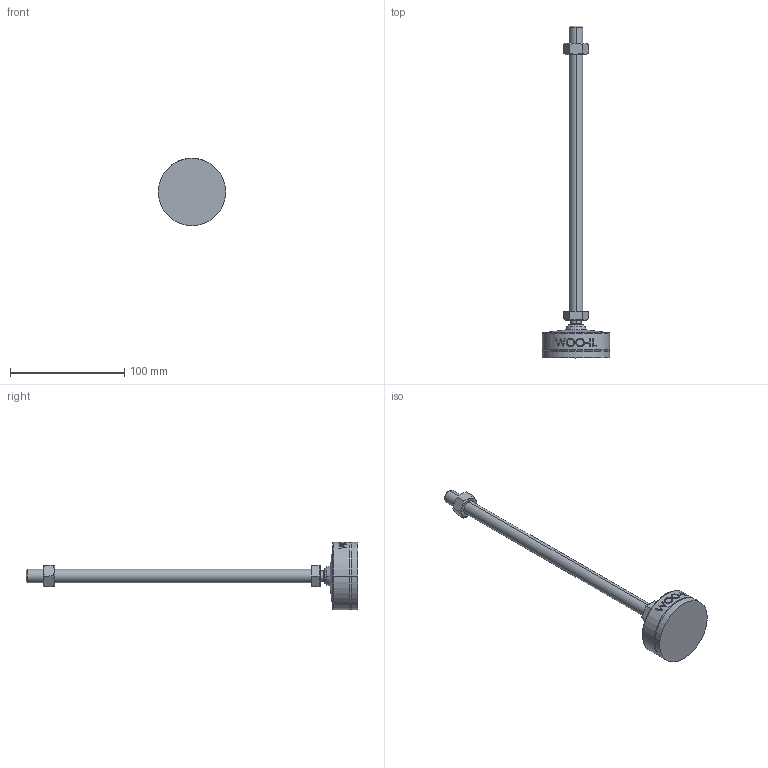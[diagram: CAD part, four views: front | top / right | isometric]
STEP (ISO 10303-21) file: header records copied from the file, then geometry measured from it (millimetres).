
FILE_DESCRIPTION (( 'STEP AP214' ), '1' );
FILE_NAME ('MFNR59-M12-250.step', '2021-02-22T09:06:20', ( '' ), ( '' ), 'SwSTEP 2.0', 'SolidWorks 2019', '' );
FILE_SCHEMA (( 'AUTOMOTIVE_DESIGN' ));
Length unit declared in the file: millimetre
Products named in the file (2): MFNR59-M12-250
Bounding box: 59 x 291 x 59 mm (x, y, z)
Volume: 97139.1 mm3; surface area: 21830.8 mm2
Topology: 2 solids, 2 shells, 105 faces, 245 edges, 156 vertices
Faces by surface type: plane 47, cone 18, cylinder 18, bspline 16, torus 4, sphere 2
Entity records: 4515 total; most frequent: CARTESIAN_POINT 2178, ORIENTED_EDGE 490, DIRECTION 437, EDGE_CURVE 245, AXIS2_PLACEMENT_3D 167, VERTEX_POINT 156, EDGE_LOOP 119, FACE_OUTER_BOUND 105
